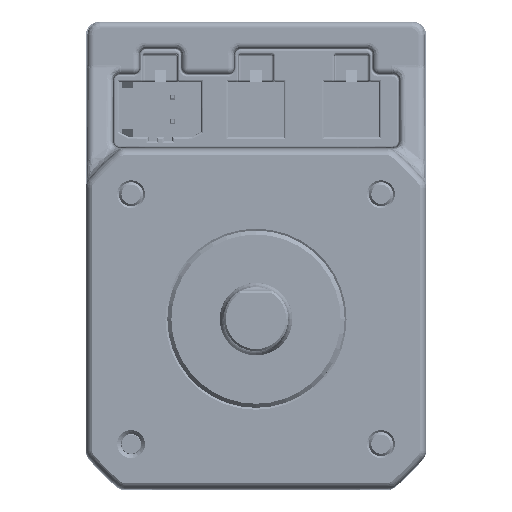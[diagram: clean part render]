
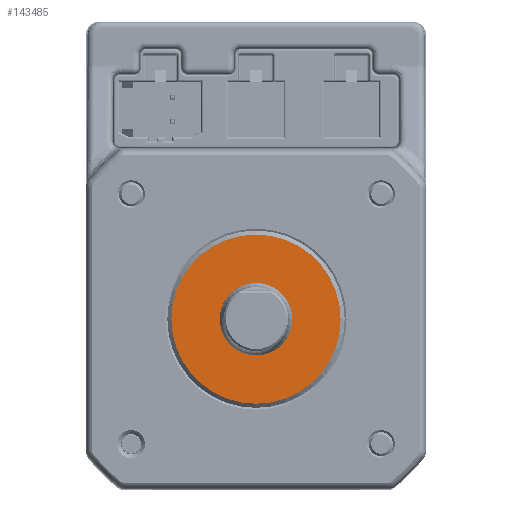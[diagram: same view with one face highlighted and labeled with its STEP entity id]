
A CAD part, top view. The second image highlights one B-rep face of the part: STEP entity #143485.
In plain terms, the highlighted planar face has unit normal (0, 0, 1).
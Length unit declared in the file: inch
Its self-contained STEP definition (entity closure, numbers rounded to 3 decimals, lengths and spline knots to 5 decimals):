
#21088 = CARTESIAN_POINT ( 'NONE',  ( 0., 0., 0.07874 ) ) ;
#23381 = AXIS2_PLACEMENT_3D ( 'NONE', #59170, #249255, #188028 ) ;
#27703 = DIRECTION ( 'NONE',  ( 0., 0., 1. ) ) ;
#28345 = VERTEX_POINT ( 'NONE', #120813 ) ;
#44259 = CARTESIAN_POINT ( 'NONE',  ( 0.41339, 0., 0.07874 ) ) ;
#46290 = AXIS2_PLACEMENT_3D ( 'NONE', #192514, #193888, #179856 ) ;
#49061 = EDGE_CURVE ( 'NONE', #206762, #28345, #212371, .T. ) ;
#51187 = AXIS2_PLACEMENT_3D ( 'NONE', #70897, #55491, #262367 ) ;
#55491 = DIRECTION ( 'NONE',  ( 0., 0., 1. ) ) ;
#55535 = ORIENTED_EDGE ( 'NONE', *, *, #169195, .T. ) ;
#59170 = CARTESIAN_POINT ( 'NONE',  ( 0., 0., 0.07874 ) ) ;
#70897 = CARTESIAN_POINT ( 'NONE',  ( 0., 0., 0.07874 ) ) ;
#88946 = CIRCLE ( 'NONE', #270577, 0.17717 ) ;
#92880 = AXIS2_PLACEMENT_3D ( 'NONE', #21088, #190196, #227746 ) ;
#94823 = ORIENTED_EDGE ( 'NONE', *, *, #164822, .F. ) ;
#95719 = VERTEX_POINT ( 'NONE', #210875 ) ;
#109597 = CARTESIAN_POINT ( 'NONE',  ( 0., 0., 0.07874 ) ) ;
#116097 = FACE_BOUND ( 'NONE', #180647, .T. ) ;
#120813 = CARTESIAN_POINT ( 'NONE',  ( -0.17717, 0., 0.07874 ) ) ;
#123922 = EDGE_CURVE ( 'NONE', #130592, #95719, #205610, .T. ) ;
#130592 = VERTEX_POINT ( 'NONE', #44259 ) ;
#131799 = DIRECTION ( 'NONE',  ( 1., 0., 0. ) ) ;
#143485 = ADVANCED_FACE ( 'NONE', ( #116097, #201994 ), #178469, .T. ) ;
#164822 = EDGE_CURVE ( 'NONE', #28345, #206762, #88946, .T. ) ;
#166062 = EDGE_LOOP ( 'NONE', ( #55535, #204887 ) ) ;
#166983 = CARTESIAN_POINT ( 'NONE',  ( 0.17717, 0., 0.07874 ) ) ;
#169195 = EDGE_CURVE ( 'NONE', #95719, #130592, #263937, .T. ) ;
#178469 = PLANE ( 'NONE',  #23381 ) ;
#179856 = DIRECTION ( 'NONE',  ( 1., 0., 0. ) ) ;
#180647 = EDGE_LOOP ( 'NONE', ( #94823, #209038 ) ) ;
#188028 = DIRECTION ( 'NONE',  ( 1., 0., 0. ) ) ;
#190196 = DIRECTION ( 'NONE',  ( 0., 0., 1. ) ) ;
#192514 = CARTESIAN_POINT ( 'NONE',  ( 0., 0., 0.07874 ) ) ;
#193888 = DIRECTION ( 'NONE',  ( 0., 0., 1. ) ) ;
#201994 = FACE_OUTER_BOUND ( 'NONE', #166062, .T. ) ;
#204887 = ORIENTED_EDGE ( 'NONE', *, *, #123922, .T. ) ;
#205610 = CIRCLE ( 'NONE', #46290, 0.41339 ) ;
#206762 = VERTEX_POINT ( 'NONE', #166983 ) ;
#209038 = ORIENTED_EDGE ( 'NONE', *, *, #49061, .F. ) ;
#210875 = CARTESIAN_POINT ( 'NONE',  ( -0.41339, 0., 0.07874 ) ) ;
#212371 = CIRCLE ( 'NONE', #92880, 0.17717 ) ;
#227746 = DIRECTION ( 'NONE',  ( 1., 0., 0. ) ) ;
#249255 = DIRECTION ( 'NONE',  ( 0., 0., 1. ) ) ;
#262367 = DIRECTION ( 'NONE',  ( 1., 0., 0. ) ) ;
#263937 = CIRCLE ( 'NONE', #51187, 0.41339 ) ;
#270577 = AXIS2_PLACEMENT_3D ( 'NONE', #109597, #27703, #131799 ) ;
